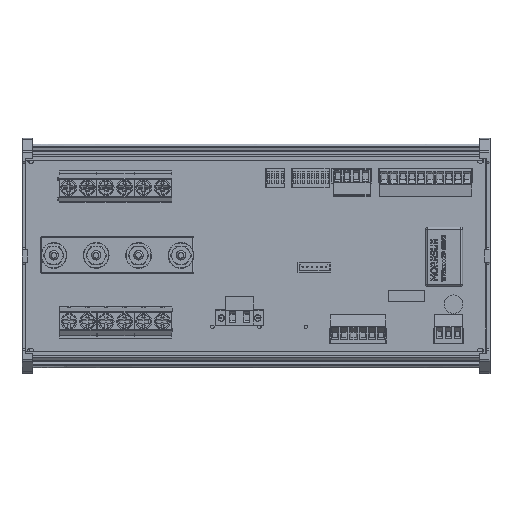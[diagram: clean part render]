
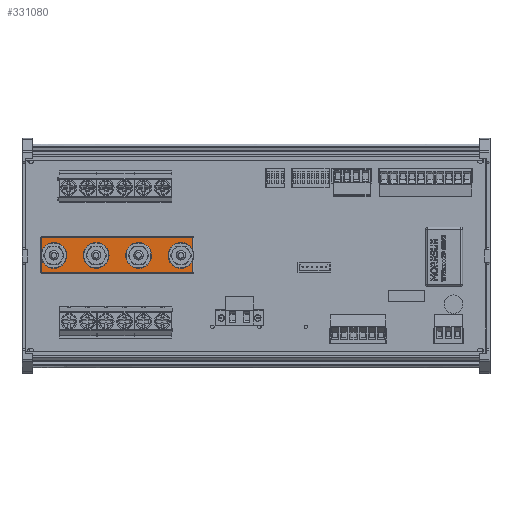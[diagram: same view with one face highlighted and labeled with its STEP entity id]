
A CAD part, top view. The second image highlights one B-rep face of the part: STEP entity #331080.
In plain terms, the highlighted planar face has unit normal (0, 0, 1).
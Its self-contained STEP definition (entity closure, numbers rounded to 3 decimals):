
#330503 = CYLINDRICAL_SURFACE('',#330504,0.5);
#330504 = AXIS2_PLACEMENT_3D('',#330505,#330506,#330507);
#330505 = CARTESIAN_POINT('',(0.5,0.,4.5));
#330506 = DIRECTION('',(0.,1.,0.));
#330507 = DIRECTION('',(-1.,0.,0.));
#330686 = VERTEX_POINT('',#330687);
#330687 = CARTESIAN_POINT('',(0.5,0.5,5.));
#330707 = EDGE_CURVE('',#330686,#330708,#330710,.T.);
#330708 = VERTEX_POINT('',#330709);
#330709 = CARTESIAN_POINT('',(0.5,19.5,5.));
#330710 = SURFACE_CURVE('',#330711,(#330715,#330722),.PCURVE_S1.);
#330711 = LINE('',#330712,#330713);
#330712 = CARTESIAN_POINT('',(0.5,0.,5.));
#330713 = VECTOR('',#330714,1.);
#330714 = DIRECTION('',(0.,1.,0.));
#330715 = PCURVE('',#330503,#330716);
#330716 = DEFINITIONAL_REPRESENTATION('',(#330717),#330721);
#330717 = LINE('',#330718,#330719);
#330718 = CARTESIAN_POINT('',(1.571,0.));
#330719 = VECTOR('',#330720,1.);
#330720 = DIRECTION('',(0.,1.));
#330721 = ( GEOMETRIC_REPRESENTATION_CONTEXT(2) 
PARAMETRIC_REPRESENTATION_CONTEXT() REPRESENTATION_CONTEXT('2D SPACE',''
  ) );
#330722 = PCURVE('',#330723,#330728);
#330723 = PLANE('',#330724);
#330724 = AXIS2_PLACEMENT_3D('',#330725,#330726,#330727);
#330725 = CARTESIAN_POINT('',(0.,0.,5.));
#330726 = DIRECTION('',(0.,0.,1.));
#330727 = DIRECTION('',(1.,0.,0.));
#330728 = DEFINITIONAL_REPRESENTATION('',(#330729),#330733);
#330729 = LINE('',#330730,#330731);
#330730 = CARTESIAN_POINT('',(0.5,0.));
#330731 = VECTOR('',#330732,1.);
#330732 = DIRECTION('',(0.,1.));
#330733 = ( GEOMETRIC_REPRESENTATION_CONTEXT(2) 
PARAMETRIC_REPRESENTATION_CONTEXT() REPRESENTATION_CONTEXT('2D SPACE',''
  ) );
#330887 = CYLINDRICAL_SURFACE('',#330888,0.5);
#330888 = AXIS2_PLACEMENT_3D('',#330889,#330890,#330891);
#330889 = CARTESIAN_POINT('',(0.,0.5,4.5));
#330890 = DIRECTION('',(1.,0.,0.));
#330891 = DIRECTION('',(0.,-1.,0.));
#331080 = ADVANCED_FACE('',(#331081),#330723,.T.);
#331081 = FACE_BOUND('',#331082,.T.);
#331082 = EDGE_LOOP('',(#331083,#331084,#331107,#331135));
#331083 = ORIENTED_EDGE('',*,*,#330707,.F.);
#331084 = ORIENTED_EDGE('',*,*,#331085,.T.);
#331085 = EDGE_CURVE('',#330686,#331086,#331088,.T.);
#331086 = VERTEX_POINT('',#331087);
#331087 = CARTESIAN_POINT('',(82.5,0.5,5.));
#331088 = SURFACE_CURVE('',#331089,(#331093,#331100),.PCURVE_S1.);
#331089 = LINE('',#331090,#331091);
#331090 = CARTESIAN_POINT('',(0.,0.5,5.));
#331091 = VECTOR('',#331092,1.);
#331092 = DIRECTION('',(1.,0.,0.));
#331093 = PCURVE('',#330723,#331094);
#331094 = DEFINITIONAL_REPRESENTATION('',(#331095),#331099);
#331095 = LINE('',#331096,#331097);
#331096 = CARTESIAN_POINT('',(0.,0.5));
#331097 = VECTOR('',#331098,1.);
#331098 = DIRECTION('',(1.,0.));
#331099 = ( GEOMETRIC_REPRESENTATION_CONTEXT(2) 
PARAMETRIC_REPRESENTATION_CONTEXT() REPRESENTATION_CONTEXT('2D SPACE',''
  ) );
#331100 = PCURVE('',#330887,#331101);
#331101 = DEFINITIONAL_REPRESENTATION('',(#331102),#331106);
#331102 = LINE('',#331103,#331104);
#331103 = CARTESIAN_POINT('',(4.712,0.));
#331104 = VECTOR('',#331105,1.);
#331105 = DIRECTION('',(0.,1.));
#331106 = ( GEOMETRIC_REPRESENTATION_CONTEXT(2) 
PARAMETRIC_REPRESENTATION_CONTEXT() REPRESENTATION_CONTEXT('2D SPACE',''
  ) );
#331107 = ORIENTED_EDGE('',*,*,#331108,.T.);
#331108 = EDGE_CURVE('',#331086,#331109,#331111,.T.);
#331109 = VERTEX_POINT('',#331110);
#331110 = CARTESIAN_POINT('',(82.5,19.5,5.));
#331111 = SURFACE_CURVE('',#331112,(#331116,#331123),.PCURVE_S1.);
#331112 = LINE('',#331113,#331114);
#331113 = CARTESIAN_POINT('',(82.5,0.,5.));
#331114 = VECTOR('',#331115,1.);
#331115 = DIRECTION('',(0.,1.,0.));
#331116 = PCURVE('',#330723,#331117);
#331117 = DEFINITIONAL_REPRESENTATION('',(#331118),#331122);
#331118 = LINE('',#331119,#331120);
#331119 = CARTESIAN_POINT('',(82.5,0.));
#331120 = VECTOR('',#331121,1.);
#331121 = DIRECTION('',(0.,1.));
#331122 = ( GEOMETRIC_REPRESENTATION_CONTEXT(2) 
PARAMETRIC_REPRESENTATION_CONTEXT() REPRESENTATION_CONTEXT('2D SPACE',''
  ) );
#331123 = PCURVE('',#331124,#331129);
#331124 = CYLINDRICAL_SURFACE('',#331125,0.5);
#331125 = AXIS2_PLACEMENT_3D('',#331126,#331127,#331128);
#331126 = CARTESIAN_POINT('',(82.5,0.,4.5));
#331127 = DIRECTION('',(0.,1.,0.));
#331128 = DIRECTION('',(1.,0.,0.));
#331129 = DEFINITIONAL_REPRESENTATION('',(#331130),#331134);
#331130 = LINE('',#331131,#331132);
#331131 = CARTESIAN_POINT('',(4.712,0.));
#331132 = VECTOR('',#331133,1.);
#331133 = DIRECTION('',(0.,1.));
#331134 = ( GEOMETRIC_REPRESENTATION_CONTEXT(2) 
PARAMETRIC_REPRESENTATION_CONTEXT() REPRESENTATION_CONTEXT('2D SPACE',''
  ) );
#331135 = ORIENTED_EDGE('',*,*,#331136,.F.);
#331136 = EDGE_CURVE('',#330708,#331109,#331137,.T.);
#331137 = SURFACE_CURVE('',#331138,(#331142,#331149),.PCURVE_S1.);
#331138 = LINE('',#331139,#331140);
#331139 = CARTESIAN_POINT('',(0.,19.5,5.));
#331140 = VECTOR('',#331141,1.);
#331141 = DIRECTION('',(1.,0.,0.));
#331142 = PCURVE('',#330723,#331143);
#331143 = DEFINITIONAL_REPRESENTATION('',(#331144),#331148);
#331144 = LINE('',#331145,#331146);
#331145 = CARTESIAN_POINT('',(0.,19.5));
#331146 = VECTOR('',#331147,1.);
#331147 = DIRECTION('',(1.,0.));
#331148 = ( GEOMETRIC_REPRESENTATION_CONTEXT(2) 
PARAMETRIC_REPRESENTATION_CONTEXT() REPRESENTATION_CONTEXT('2D SPACE',''
  ) );
#331149 = PCURVE('',#331150,#331155);
#331150 = CYLINDRICAL_SURFACE('',#331151,0.5);
#331151 = AXIS2_PLACEMENT_3D('',#331152,#331153,#331154);
#331152 = CARTESIAN_POINT('',(0.,19.5,4.5));
#331153 = DIRECTION('',(1.,0.,0.));
#331154 = DIRECTION('',(0.,1.,0.));
#331155 = DEFINITIONAL_REPRESENTATION('',(#331156),#331160);
#331156 = LINE('',#331157,#331158);
#331157 = CARTESIAN_POINT('',(1.571,0.));
#331158 = VECTOR('',#331159,1.);
#331159 = DIRECTION('',(0.,1.));
#331160 = ( GEOMETRIC_REPRESENTATION_CONTEXT(2) 
PARAMETRIC_REPRESENTATION_CONTEXT() REPRESENTATION_CONTEXT('2D SPACE',''
  ) );
